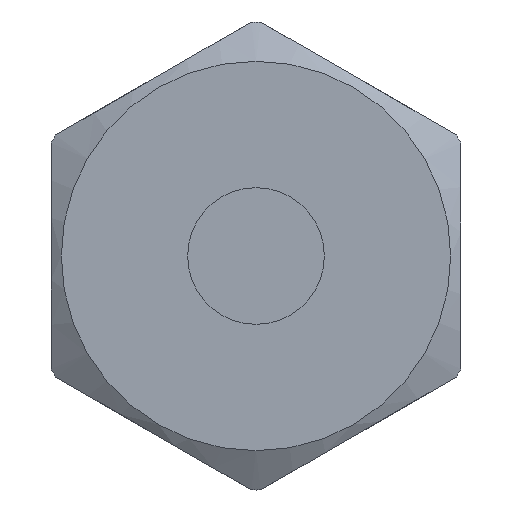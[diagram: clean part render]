
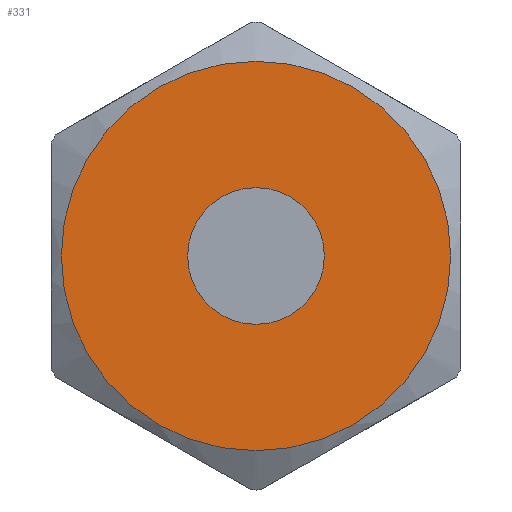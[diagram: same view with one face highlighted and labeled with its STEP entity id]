
A CAD part, left-side view. The second image highlights one B-rep face of the part: STEP entity #331.
In plain terms, the highlighted planar face has unit normal (-1, 0, 0).
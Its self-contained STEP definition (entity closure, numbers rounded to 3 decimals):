
#295=CARTESIAN_POINT('',(-6.,0.,-0.));
#296=DIRECTION('',(-1.,0.,-0.));
#297=DIRECTION('',(-0.,0.,1.));
#298=AXIS2_PLACEMENT_3D('',#295,#296,#297);
#299=PLANE('',#298);
#300=CARTESIAN_POINT('',(-6.,-0.,2.));
#301=VERTEX_POINT('',#300);
#302=CARTESIAN_POINT('',(-6.,0.,-0.));
#303=DIRECTION('',(-1.,0.,0.));
#304=DIRECTION('',(0.,0.,1.));
#305=AXIS2_PLACEMENT_3D('',#302,#303,#304);
#306=CIRCLE('',#305,2.);
#307=EDGE_CURVE('',#301,#301,#306,.T.);
#308=ORIENTED_EDGE('',*,*,#307,.F.);
#309=EDGE_LOOP('',(#308));
#310=FACE_BOUND('',#309,.T.);
#311=CARTESIAN_POINT('',(-6.,-0.,5.7));
#312=VERTEX_POINT('',#311);
#313=CARTESIAN_POINT('',(-6.,0.,-5.7));
#314=VERTEX_POINT('',#313);
#315=CARTESIAN_POINT('',(-6.,0.,-0.));
#316=DIRECTION('',(-1.,0.,0.));
#317=DIRECTION('',(0.,0.,1.));
#318=AXIS2_PLACEMENT_3D('',#315,#316,#317);
#319=CIRCLE('',#318,5.7);
#320=EDGE_CURVE('',#312,#314,#319,.T.);
#321=ORIENTED_EDGE('',*,*,#320,.T.);
#322=CARTESIAN_POINT('',(-6.,0.,-0.));
#323=DIRECTION('',(-1.,0.,0.));
#324=DIRECTION('',(0.,0.,1.));
#325=AXIS2_PLACEMENT_3D('',#322,#323,#324);
#326=CIRCLE('',#325,5.7);
#327=EDGE_CURVE('',#314,#312,#326,.T.);
#328=ORIENTED_EDGE('',*,*,#327,.T.);
#329=EDGE_LOOP('',(#321,#328));
#330=FACE_BOUND('',#329,.T.);
#331=ADVANCED_FACE('',(#310,#330),#299,.T.);
